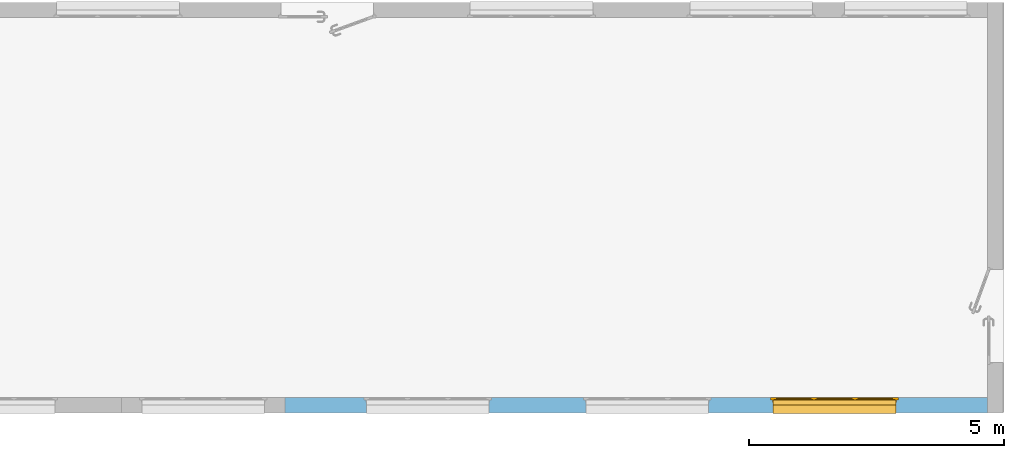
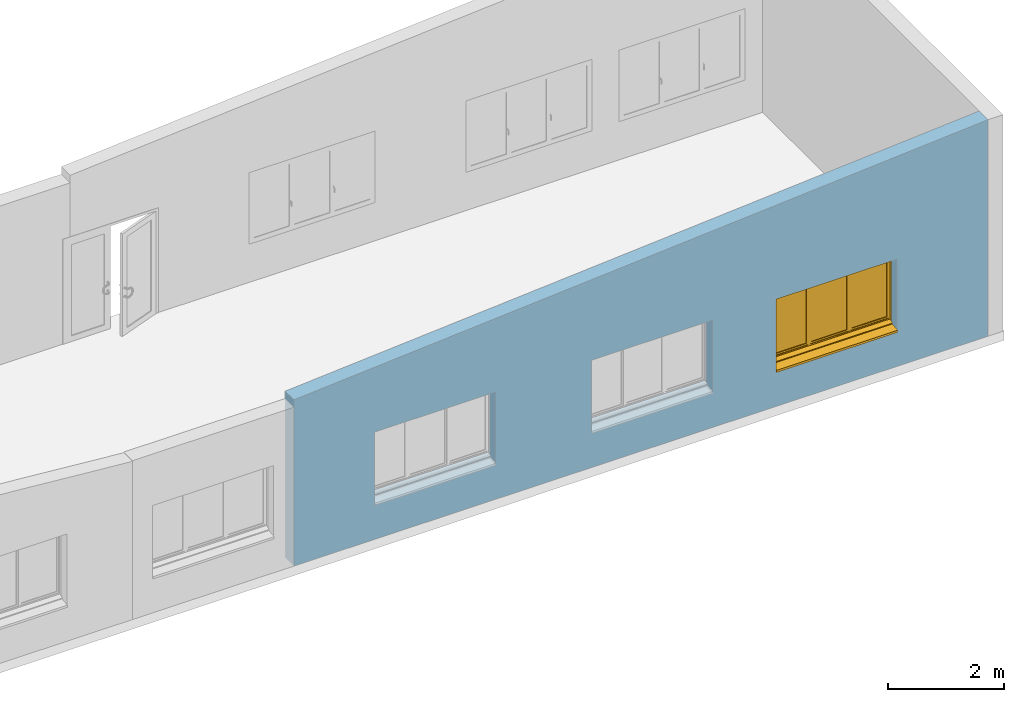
# One storey, part 6 of 8: 1 window, 3 openings, plus 1 element that does not belong to this part.
"""IFC2X3 building model written with IfcOpenShell, lengths in metres."""

from ifc_helpers import new_model, entity, si_unit, converted_unit, derived_unit, direction, frame, frame_2d, origin, place, context, subcontext, project, spatial, polyline, rectangle, extrude, clip, bounded_halfspace, faceted_brep, source, transform, mapped, material, material_list, layer, layer_set, layer_usage, type_object, type_shapes, element, fill, save


model = new_model("IFC2X3")

# Units and contexts
model_context = context("Model", 3, precision=1e-05, world=origin(), true_north=direction((6.12303176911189e-17, 1.0)))
body_context = subcontext(model_context, "Body", "Model", "MODEL_VIEW")
ifc_project = project(units=[si_unit("LENGTHUNIT", "METRE"), si_unit("AREAUNIT", "SQUARE_METRE"), si_unit("VOLUMEUNIT", "CUBIC_METRE"), converted_unit("PLANEANGLEUNIT", "DEGREE", entity("IfcRatioMeasure", 0.0174532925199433), si_unit("PLANEANGLEUNIT", "RADIAN"), dimensions=[0, 0, 0, 0, 0, 0, 0]), si_unit("MASSUNIT", "GRAM", prefix="KILO"), derived_unit("MASSDENSITYUNIT", [(si_unit("MASSUNIT", "GRAM", prefix="KILO"), 1), (si_unit("LENGTHUNIT", "METRE"), -3)]), si_unit("TIMEUNIT", "SECOND"), si_unit("FREQUENCYUNIT", "HERTZ"), si_unit("THERMODYNAMICTEMPERATUREUNIT", "DEGREE_CELSIUS"), derived_unit("THERMALTRANSMITTANCEUNIT", [(si_unit("MASSUNIT", "GRAM", prefix="KILO"), 1), (si_unit("THERMODYNAMICTEMPERATUREUNIT", "KELVIN"), -1), (si_unit("TIMEUNIT", "SECOND"), -3)]), derived_unit("VOLUMETRICFLOWRATEUNIT", [(si_unit("LENGTHUNIT", "METRE"), 3), (si_unit("TIMEUNIT", "SECOND"), -1)]), si_unit("ELECTRICCURRENTUNIT", "AMPERE"), si_unit("ELECTRICVOLTAGEUNIT", "VOLT"), si_unit("POWERUNIT", "WATT"), si_unit("FORCEUNIT", "NEWTON", prefix="KILO"), si_unit("ILLUMINANCEUNIT", "LUX"), si_unit("LUMINOUSFLUXUNIT", "LUMEN"), si_unit("LUMINOUSINTENSITYUNIT", "CANDELA"), derived_unit("USERDEFINED", [(si_unit("MASSUNIT", "GRAM", prefix="KILO"), -1), (si_unit("LENGTHUNIT", "METRE"), -2), (si_unit("TIMEUNIT", "SECOND"), 3), (si_unit("LUMINOUSFLUXUNIT", "LUMEN"), 1)]), derived_unit("LINEARVELOCITYUNIT", [(si_unit("LENGTHUNIT", "METRE"), 1), (si_unit("TIMEUNIT", "SECOND"), -1)]), si_unit("PRESSUREUNIT", "PASCAL"), derived_unit("USERDEFINED", [(si_unit("LENGTHUNIT", "METRE"), -2), (si_unit("MASSUNIT", "GRAM", prefix="KILO"), 1), (si_unit("TIMEUNIT", "SECOND"), -2)])], contexts=[model_context])

# Site, building, storey
site_placement = place(None, origin())
site = spatial("IfcSite", under=ifc_project, at=site_placement, Name="Default", CompositionType="ELEMENT")
building_placement = place(site_placement, origin())
building = spatial("IfcBuilding", under=site, at=building_placement, CompositionType="ELEMENT")
storey_placement = place(building_placement, frame((0.0, 0.0, 3.3)))
storey = spatial("IfcBuildingStorey", under=building, at=storey_placement, Name="Niveau 1", CompositionType="ELEMENT", Elevation=3.3)

# Wall, openings, window
ifc_material_1 = material(Name="Maçonnerie - Voile BA")
ifc_layer_1 = layer(ifc_material_1, 0.18)
ifc_material_2 = material(Name="Maçonnerie - Isolant")
ifc_layer_2 = layer(ifc_material_2, 0.12)
ifc_layer_set = layer_set([ifc_layer_1, ifc_layer_2], Name="Mur de base:Ext. Voile BA 18 + Isolant 12")
ifc_layer_usage = layer_usage(ifc_layer_set, "AXIS2", "NEGATIVE", 0.15)
wall_type = type_object("IfcWallType", Name="Mur de base:Ext. Voile BA 18 + Isolant 12", PredefinedType="STANDARD", material=ifc_layer_set)
wall_placement = place(storey_placement, frame((12.280485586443, -4.88088141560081, 0.0), z_axis=(0.0, 0.0, 1.0), x_axis=(-1.0, 0.0, 0.0)))
wall = element("IfcWallStandardCase", 1, at=wall_placement, inside=storey, type_object=wall_type, material=ifc_layer_usage, Name="Mur de base:Ext. Voile BA 18 + Isolant 12", ObjectType="Mur de base:Ext. Voile BA 18 + Isolant 12", context=body_context, shape_type="Clipping", body=[
    clip(extrude(rectangle(XDim=13.7658292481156, YDim=0.3, at=frame_2d((6.88291462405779, -6.93889390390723e-17), x_axis=(-1.0, 0.0))), origin(), (0.0, 0.0, 1.0), 4.54000000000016), bounded_halfspace(frame((0.0, -0.150000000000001, 4.54000000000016), z_axis=(-0.0763909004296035, 0.0, -0.997077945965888), x_axis=(-0.997077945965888, 0.0, 0.0763909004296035)), True, frame((0.0, -0.150000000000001, 4.54000000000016)), polyline([(0.0, 0.0), (13.7658292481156, 0.0), (13.7658292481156, 0.3), (0.0, 0.3), (0.0, 0.0)]))),
])
opening_1_placement = place(wall_placement, frame((12.2158292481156, 0.499999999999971, 0.720000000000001), z_axis=(0.0, 0.0, 1.0), x_axis=(-1.0, 0.0, 0.0)))
element("IfcOpeningElement", 2, at=opening_1_placement, cuts=wall, Name="Mur de base:Ext. Voile BA 18 + Isolant 12", ObjectType="Opening", context=body_context, shape_type="Brep", body=[
    faceted_brep([(2.45, 0.57000000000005, 0.0800000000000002), (2.45, 0.549999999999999, 0.0800000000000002), (2.45, 0.549999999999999, 1.53), (2.45, 0.0, 1.53), (2.45, 0.0, 0.0), (2.45, 0.57000000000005, 0.0), (0.0500000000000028, 1.0, 0.0800000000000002), (0.0500000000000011, 0.650000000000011, 0.0800000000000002), (0.0500000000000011, 0.650000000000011, 1.53), (0.0500000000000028, 1.0, 1.53), (2.45, 1.0, 0.0800000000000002), (2.45, 0.650000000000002, 0.0800000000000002), (2.5, 0.650000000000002, 0.0800000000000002), (2.5, 0.600000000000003, 0.0800000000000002), (2.46, 0.600000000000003, 0.0800000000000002), (2.46, 0.549999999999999, 0.0800000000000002), (0.0500000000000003, 0.570000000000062, 0.0800000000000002), (0.0500000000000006, 0.550000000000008, 0.0800000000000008), (0.0399999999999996, 0.550000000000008, 0.0800000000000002), (0.0399999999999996, 0.600000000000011, 0.0800000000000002), (0.0, 0.600000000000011, 0.0800000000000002), (0.0, 0.65000000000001, 0.0800000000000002), (2.45, 1.0, 1.53), (0.0500000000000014, 0.550000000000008, 1.53), (0.049999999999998, 0.0, 1.53), (0.049999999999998, 0.0, 0.0), (0.0500000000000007, 0.570000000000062, 0.0), (2.5, 0.650000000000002, 1.58), (2.5, 0.600000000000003, 1.58), (0.0, 0.600000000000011, 1.58), (0.0400000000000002, 0.600000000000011, 1.54), (2.46, 0.600000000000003, 1.54), (2.46, 0.549999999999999, 1.54), (0.0399999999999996, 0.550000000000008, 1.54), (2.45, 0.650000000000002, 1.53), (0.0, 0.650000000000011, 1.58)], [[[0, 1, 2, 3, 4, 5]], [[6, 7, 8, 9]], [[10, 11, 12, 13, 14, 15, 1, 0, 16, 17, 18, 19, 20, 21, 7, 6]], [[10, 6, 9, 22]], [[3, 2, 23, 24]], [[3, 24, 25, 4]], [[4, 25, 26, 5]], [[5, 26, 16, 0]], [[12, 27, 28, 13]], [[13, 28, 29, 20, 19, 30, 31, 14]], [[14, 31, 32, 15]], [[15, 32, 33, 18, 17, 23, 2, 1]], [[11, 34, 8, 7, 21, 35, 27, 12]], [[27, 35, 29, 28]], [[30, 33, 32, 31]], [[29, 35, 21, 20]], [[19, 18, 33, 30]], [[9, 8, 34, 22]], [[24, 23, 17, 16, 26, 25]], [[22, 34, 11, 10]]]),
])
opening_2_placement = place(wall_placement, frame((7.91582924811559, 0.499999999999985, 0.720000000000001), z_axis=(0.0, 0.0, 1.0), x_axis=(-1.0, 0.0, 0.0)))
element("IfcOpeningElement", 3, at=opening_2_placement, cuts=wall, Name="Mur de base:Ext. Voile BA 18 + Isolant 12", ObjectType="Opening", context=body_context, shape_type="Brep", body=[
    faceted_brep([(2.45, 0.57000000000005, 0.0800000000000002), (2.45, 0.549999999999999, 0.0800000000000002), (2.45, 0.549999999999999, 1.53), (2.45, 0.0, 1.53), (2.45, 0.0, 0.0), (2.45, 0.57000000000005, 0.0), (0.0500000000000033, 1.0, 0.0800000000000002), (0.0500000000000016, 0.650000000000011, 0.0800000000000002), (0.0500000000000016, 0.650000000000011, 1.53), (0.0500000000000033, 1.0, 1.53), (2.45, 1.0, 0.0800000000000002), (2.45, 0.650000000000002, 0.0800000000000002), (2.5, 0.650000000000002, 0.0800000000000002), (2.5, 0.600000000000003, 0.0800000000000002), (2.46, 0.600000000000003, 0.0800000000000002), (2.46, 0.549999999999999, 0.0800000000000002), (0.0500000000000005, 0.570000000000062, 0.0800000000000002), (0.0500000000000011, 0.550000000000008, 0.0800000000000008), (0.0400000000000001, 0.550000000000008, 0.0800000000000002), (0.0400000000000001, 0.600000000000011, 0.0800000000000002), (0.0, 0.600000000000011, 0.0800000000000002), (0.0, 0.65000000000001, 0.0800000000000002), (2.45, 1.0, 1.53), (0.0500000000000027, 0.550000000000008, 1.53), (0.0499999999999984, 0.0, 1.53), (0.0499999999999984, 0.0, 0.0), (0.0500000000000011, 0.570000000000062, 0.0), (2.5, 0.650000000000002, 1.58), (2.5, 0.600000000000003, 1.58), (0.0, 0.600000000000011, 1.58), (0.0400000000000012, 0.600000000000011, 1.54), (2.46, 0.600000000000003, 1.54), (2.46, 0.549999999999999, 1.54), (0.0400000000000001, 0.550000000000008, 1.54), (2.45, 0.650000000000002, 1.53), (0.0, 0.650000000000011, 1.58)], [[[0, 1, 2, 3, 4, 5]], [[6, 7, 8, 9]], [[10, 11, 12, 13, 14, 15, 1, 0, 16, 17, 18, 19, 20, 21, 7, 6]], [[10, 6, 9, 22]], [[3, 2, 23, 24]], [[3, 24, 25, 4]], [[4, 25, 26, 5]], [[5, 26, 16, 0]], [[12, 27, 28, 13]], [[13, 28, 29, 20, 19, 30, 31, 14]], [[14, 31, 32, 15]], [[15, 32, 33, 18, 17, 23, 2, 1]], [[11, 34, 8, 7, 21, 35, 27, 12]], [[27, 35, 29, 28]], [[30, 33, 32, 31]], [[29, 35, 21, 20]], [[19, 18, 33, 30]], [[9, 8, 34, 22]], [[24, 23, 17, 16, 26, 25]], [[22, 34, 11, 10]]]),
])
opening_3_placement = place(wall_placement, frame((4.25, 0.499999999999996, 0.720000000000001), z_axis=(0.0, 0.0, 1.0), x_axis=(-1.0, 0.0, 0.0)))
opening_3 = element("IfcOpeningElement", 4, at=opening_3_placement, cuts=wall, Name="Mur de base:Ext. Voile BA 18 + Isolant 12", ObjectType="Opening", context=body_context, shape_type="Brep", body=[
    faceted_brep([(2.45, 0.57000000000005, 0.0800000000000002), (2.45, 0.549999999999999, 0.0800000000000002), (2.45, 0.549999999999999, 1.53), (2.45, 0.0, 1.53), (2.45, 0.0, 0.0), (2.45, 0.57000000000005, 0.0), (0.0500000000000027, 1.0, 0.0800000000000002), (0.0500000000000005, 0.650000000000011, 0.0800000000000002), (0.0500000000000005, 0.650000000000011, 1.53), (0.0500000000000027, 1.0, 1.53), (2.45, 1.0, 0.0800000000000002), (2.45, 0.650000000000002, 0.0800000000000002), (2.5, 0.650000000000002, 0.0800000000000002), (2.5, 0.600000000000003, 0.0800000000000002), (2.46, 0.600000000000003, 0.0800000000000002), (2.46, 0.549999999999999, 0.0800000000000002), (0.0500000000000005, 0.570000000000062, 0.0800000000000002), (0.0500000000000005, 0.550000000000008, 0.0800000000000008), (0.0399999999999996, 0.550000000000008, 0.0800000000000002), (0.0399999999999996, 0.600000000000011, 0.0800000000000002), (0.0, 0.600000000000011, 0.0800000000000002), (0.0, 0.65000000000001, 0.0800000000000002), (2.45, 1.0, 1.53), (0.0500000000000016, 0.550000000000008, 1.53), (0.0499999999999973, 0.0, 1.53), (0.0499999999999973, 0.0, 0.0), (0.0500000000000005, 0.570000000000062, 0.0), (2.5, 0.650000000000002, 1.58), (2.5, 0.600000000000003, 1.58), (0.0, 0.600000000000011, 1.58), (0.0399999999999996, 0.600000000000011, 1.54), (2.46, 0.600000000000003, 1.54), (2.46, 0.549999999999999, 1.54), (0.0399999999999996, 0.550000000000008, 1.54), (2.45, 0.650000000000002, 1.53), (0.0, 0.650000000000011, 1.58)], [[[0, 1, 2, 3, 4, 5]], [[6, 7, 8, 9]], [[10, 11, 12, 13, 14, 15, 1, 0, 16, 17, 18, 19, 20, 21, 7, 6]], [[10, 6, 9, 22]], [[3, 2, 23, 24]], [[3, 24, 25, 4]], [[4, 25, 26, 5]], [[5, 26, 16, 0]], [[12, 27, 28, 13]], [[13, 28, 29, 20, 19, 30, 31, 14]], [[14, 31, 32, 15]], [[15, 32, 33, 18, 17, 23, 2, 1]], [[11, 34, 8, 7, 21, 35, 27, 12]], [[27, 35, 29, 28]], [[30, 33, 32, 31]], [[29, 35, 21, 20]], [[19, 18, 33, 30]], [[9, 8, 34, 22]], [[24, 23, 17, 16, 26, 25]], [[22, 34, 11, 10]]]),
])
ifc_material_3 = material(Name="Fenêtre - Poignée")
ifc_material_4 = material(Name="Fenêtre - Appui")
ifc_material_5 = material(Name="Fenêtre - Cadre")
ifc_material_6 = material(Name="Fenêtre - Vitrage")
ifc_material_list_1 = material_list([ifc_material_3, ifc_material_4, ifc_material_5, ifc_material_6])
ifc_material_list_2 = material_list([ifc_material_3, ifc_material_4, ifc_material_5, ifc_material_6])
window_style = type_object("IfcWindowStyle", Name="2.40m x 1.45m - Appui Béton", ConstructionType="NOTDEFINED", OperationType="TRIPLE_PANEL_VERTICAL", ParameterTakesPrecedence=False, Sizeable=False, material=ifc_material_list_2)
shared_shape = source(origin(), body_context, "Body", "Brep", [
    faceted_brep([(0.83064600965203, -0.656000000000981, 0.702033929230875), (0.83203392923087, -0.656000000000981, 0.700646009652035), (0.83203392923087, -0.656000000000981, 0.68933230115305), (0.830667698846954, -0.656000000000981, 0.687966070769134), (0.819332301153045, -0.656000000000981, 0.687966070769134), (0.817966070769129, -0.656000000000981, 0.68933230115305), (0.817966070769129, -0.656000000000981, 0.700646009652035), (0.819353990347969, -0.656000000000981, 0.702033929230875), (0.83064600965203, -0.66891354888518, 0.702033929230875), (0.83203392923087, -0.668338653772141, 0.700646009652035), (0.83203392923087, -0.681646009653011, 0.687338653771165), (0.83203392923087, -0.681646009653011, 0.600000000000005), (0.83203392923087, -0.670332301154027, 0.600000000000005), (0.83203392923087, -0.670332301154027, 0.68265236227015), (0.83203392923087, -0.663652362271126, 0.68933230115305), (0.830667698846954, -0.663086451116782, 0.687966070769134), (0.819332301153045, -0.663086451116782, 0.687966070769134), (0.817966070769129, -0.663652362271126, 0.68933230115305), (0.817966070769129, -0.670332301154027, 0.68265236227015), (0.817966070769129, -0.670332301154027, 0.600000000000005), (0.817966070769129, -0.681646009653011, 0.600000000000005), (0.817966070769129, -0.681646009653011, 0.687338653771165), (0.817966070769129, -0.668338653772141, 0.700646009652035), (0.81935399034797, -0.66891354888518, 0.702033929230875), (0.83064600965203, -0.683033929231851, 0.687913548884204), (0.830667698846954, -0.668966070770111, 0.682086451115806), (0.819332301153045, -0.668966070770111, 0.682086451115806), (0.819353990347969, -0.683033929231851, 0.687913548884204), (0.83064600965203, -0.683033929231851, 0.600000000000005), (0.819353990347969, -0.683033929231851, 0.600000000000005), (0.819332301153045, -0.668966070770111, 0.600000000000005), (0.830667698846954, -0.668966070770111, 0.600000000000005)], [[[0, 1, 2, 3, 4, 5, 6, 7]], [[1, 0, 8, 9]], [[2, 1, 9, 10, 11, 12, 13, 14]], [[3, 2, 14, 15]], [[4, 3, 15, 16]], [[5, 4, 16, 17]], [[6, 5, 17, 18, 19, 20, 21, 22]], [[7, 6, 22, 23]], [[0, 7, 23, 8]], [[9, 8, 24, 10]], [[15, 14, 13, 25]], [[16, 15, 25, 26]], [[17, 16, 26, 18]], [[23, 22, 21, 27]], [[8, 23, 27, 24]], [[28, 29, 20, 19, 30, 31, 12, 11]], [[10, 24, 28, 11]], [[25, 13, 12, 31]], [[26, 25, 31, 30]], [[18, 26, 30, 19]], [[27, 21, 20, 29]], [[24, 27, 29, 28]]]),
    faceted_brep([(0.832000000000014, -0.656000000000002, 0.720000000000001), (0.817999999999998, -0.656000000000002, 0.720000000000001), (0.812999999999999, -0.656000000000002, 0.715000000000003), (0.812999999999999, -0.656000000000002, 0.644999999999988), (0.817999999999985, -0.656000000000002, 0.640000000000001), (0.832000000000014, -0.656000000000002, 0.640000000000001), (0.837, -0.656000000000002, 0.644999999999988), (0.837, -0.656000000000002, 0.715000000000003), (0.832000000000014, -0.650000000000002, 0.720000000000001), (0.837, -0.650000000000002, 0.715000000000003), (0.837, -0.650000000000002, 0.644999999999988), (0.832000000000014, -0.650000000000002, 0.640000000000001), (0.817999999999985, -0.650000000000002, 0.640000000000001), (0.812999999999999, -0.650000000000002, 0.644999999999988), (0.812999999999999, -0.650000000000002, 0.715000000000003), (0.817999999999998, -0.650000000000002, 0.720000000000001)], [[[0, 1, 2, 3, 4, 5, 6, 7]], [[8, 9, 10, 11, 12, 13, 14, 15]], [[1, 0, 8, 15]], [[2, 1, 15, 14]], [[3, 2, 14, 13]], [[4, 3, 13, 12]], [[5, 4, 12, 11]], [[6, 5, 11, 10]], [[7, 6, 10, 9]], [[0, 7, 9, 8]]]),
    faceted_brep([(1.68064600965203, -0.656000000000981, 0.702033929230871), (1.68203392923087, -0.656000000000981, 0.700646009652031), (1.68203392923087, -0.656000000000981, 0.689332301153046), (1.68066769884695, -0.656000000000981, 0.68796607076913), (1.66933230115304, -0.656000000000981, 0.68796607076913), (1.66796607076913, -0.656000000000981, 0.689332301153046), (1.66796607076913, -0.656000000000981, 0.700646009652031), (1.66935399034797, -0.656000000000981, 0.702033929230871), (1.68064600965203, -0.66891354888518, 0.702033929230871), (1.68203392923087, -0.668338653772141, 0.700646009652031), (1.68203392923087, -0.681646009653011, 0.687338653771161), (1.68203392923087, -0.681646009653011, 0.600000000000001), (1.68203392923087, -0.670332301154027, 0.600000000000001), (1.68203392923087, -0.670332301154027, 0.682652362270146), (1.68203392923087, -0.663652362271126, 0.689332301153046), (1.68066769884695, -0.663086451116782, 0.68796607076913), (1.66933230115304, -0.663086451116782, 0.68796607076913), (1.66796607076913, -0.663652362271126, 0.689332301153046), (1.66796607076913, -0.670332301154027, 0.682652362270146), (1.66796607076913, -0.670332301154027, 0.600000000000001), (1.66796607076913, -0.681646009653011, 0.600000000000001), (1.66796607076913, -0.681646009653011, 0.687338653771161), (1.66796607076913, -0.668338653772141, 0.700646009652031), (1.66935399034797, -0.66891354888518, 0.702033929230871), (1.68064600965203, -0.683033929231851, 0.6879135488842), (1.68066769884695, -0.668966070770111, 0.682086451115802), (1.66933230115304, -0.668966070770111, 0.682086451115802), (1.66935399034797, -0.683033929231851, 0.6879135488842), (1.68064600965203, -0.683033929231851, 0.600000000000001), (1.66935399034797, -0.683033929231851, 0.600000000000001), (1.66933230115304, -0.668966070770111, 0.600000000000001), (1.68066769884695, -0.668966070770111, 0.600000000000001)], [[[0, 1, 2, 3, 4, 5, 6, 7]], [[1, 0, 8, 9]], [[2, 1, 9, 10, 11, 12, 13, 14]], [[3, 2, 14, 15]], [[4, 3, 15, 16]], [[5, 4, 16, 17]], [[6, 5, 17, 18, 19, 20, 21, 22]], [[7, 6, 22, 23]], [[0, 7, 23, 8]], [[9, 8, 24, 10]], [[15, 14, 13, 25]], [[16, 15, 25, 26]], [[17, 16, 26, 18]], [[23, 22, 21, 27]], [[8, 23, 27, 24]], [[28, 29, 20, 19, 30, 31, 12, 11]], [[10, 24, 28, 11]], [[25, 13, 12, 31]], [[26, 25, 31, 30]], [[18, 26, 30, 19]], [[27, 21, 20, 29]], [[24, 27, 29, 28]]]),
    faceted_brep([(1.68200000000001, -0.656000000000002, 0.719999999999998), (1.668, -0.656000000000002, 0.719999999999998), (1.663, -0.656000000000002, 0.714999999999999), (1.663, -0.656000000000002, 0.644999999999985), (1.66799999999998, -0.656000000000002, 0.639999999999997), (1.68200000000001, -0.656000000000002, 0.639999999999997), (1.687, -0.656000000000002, 0.644999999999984), (1.687, -0.656000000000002, 0.714999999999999), (1.68200000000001, -0.650000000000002, 0.719999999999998), (1.687, -0.650000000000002, 0.714999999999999), (1.687, -0.650000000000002, 0.644999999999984), (1.68200000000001, -0.650000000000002, 0.639999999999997), (1.66799999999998, -0.650000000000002, 0.639999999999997), (1.663, -0.650000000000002, 0.644999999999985), (1.663, -0.650000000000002, 0.714999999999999), (1.668, -0.650000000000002, 0.719999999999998)], [[[0, 1, 2, 3, 4, 5, 6, 7]], [[8, 9, 10, 11, 12, 13, 14, 15]], [[1, 0, 8, 15]], [[2, 1, 15, 14]], [[3, 2, 14, 13]], [[4, 3, 13, 12]], [[5, 4, 12, 11]], [[6, 5, 11, 10]], [[7, 6, 10, 9]], [[0, 7, 9, 8]]]),
    faceted_brep([(0.050000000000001, -0.569999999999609, 0.0799999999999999), (0.0500000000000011, -0.519999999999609, 0.0799999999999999), (0.0500000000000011, -0.519999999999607, 0.0650000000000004), (0.0500000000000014, -0.334999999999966, 0.0455557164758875), (0.0500000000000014, -0.334999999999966, 0.0), (0.050000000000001, -0.569999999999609, 0.0), (2.45, -0.569999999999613, 0.0799999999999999), (2.45, -0.569999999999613, 0.0), (2.45, -0.33499999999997, 0.0), (2.45, -0.33499999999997, 0.0455557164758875), (2.45, -0.519999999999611, 0.0650000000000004), (2.45, -0.519999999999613, 0.0799999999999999)], [[[0, 1, 2, 3, 4, 5]], [[6, 7, 8, 9, 10, 11]], [[1, 0, 6, 11]], [[2, 1, 11, 10]], [[3, 2, 10, 9]], [[4, 3, 9, 8]], [[5, 4, 8, 7]], [[0, 5, 7, 6]]]),
    faceted_brep([(1.65, -0.610000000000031, 1.53), (1.65, -0.650000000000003, 1.53), (1.65, -0.650000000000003, 0.13), (1.65, -0.610000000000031, 0.13), (0.849999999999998, -0.65, 0.13), (0.849999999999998, -0.610000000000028, 0.13), (0.849999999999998, -0.65, 1.53), (0.899999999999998, -0.65, 0.18), (0.899999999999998, -0.65, 1.48), (1.6, -0.650000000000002, 1.48), (1.6, -0.650000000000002, 0.18), (0.849999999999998, -0.610000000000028, 1.53), (1.6, -0.61000000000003, 0.179999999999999), (1.6, -0.61000000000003, 1.48), (0.899999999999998, -0.610000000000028, 1.48), (0.899999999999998, -0.610000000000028, 0.18)], [[[0, 1, 2, 3]], [[3, 2, 4, 5]], [[2, 1, 6, 4], [7, 8, 9, 10]], [[5, 4, 6, 11]], [[5, 11, 0, 3], [12, 13, 14, 15]], [[9, 13, 12, 10]], [[10, 12, 15, 7]], [[7, 15, 14, 8]], [[11, 6, 1, 0]], [[8, 14, 13, 9]]]),
    faceted_brep([(0.849999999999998, -0.610000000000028, 1.53), (0.849999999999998, -0.650000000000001, 1.53), (0.849999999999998, -0.650000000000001, 0.13), (0.849999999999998, -0.610000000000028, 0.13), (0.0499999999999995, -0.649999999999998, 0.13), (0.0499999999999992, -0.610000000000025, 0.13), (0.0499999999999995, -0.649999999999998, 1.53), (0.0999999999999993, -0.649999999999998, 0.18), (0.0999999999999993, -0.649999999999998, 1.48), (0.799999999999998, -0.650000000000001, 1.48), (0.799999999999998, -0.650000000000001, 0.18), (0.0499999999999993, -0.610000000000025, 1.53), (0.799999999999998, -0.610000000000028, 0.18), (0.799999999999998, -0.610000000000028, 1.48), (0.0999999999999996, -0.610000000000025, 1.48), (0.0999999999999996, -0.610000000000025, 0.18)], [[[0, 1, 2, 3]], [[3, 2, 4, 5]], [[2, 1, 6, 4], [7, 8, 9, 10]], [[5, 4, 6, 11]], [[5, 11, 0, 3], [12, 13, 14, 15]], [[9, 13, 12, 10]], [[10, 12, 15, 7]], [[7, 15, 14, 8]], [[11, 6, 1, 0]], [[8, 14, 13, 9]]]),
    faceted_brep([(1.7, -0.624000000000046, 0.18), (1.7, -0.624000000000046, 1.48), (2.4, -0.624000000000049, 1.48), (2.4, -0.624000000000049, 0.18), (1.7, -0.636000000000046, 0.18), (1.7, -0.636000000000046, 1.48), (2.4, -0.636000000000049, 1.48), (2.4, -0.636000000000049, 0.18)], [[[0, 1, 2, 3]], [[1, 0, 4, 5]], [[3, 2, 6, 7]], [[0, 3, 7, 4]], [[2, 1, 5, 6]], [[4, 7, 6, 5]]]),
    faceted_brep([(0.799999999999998, -0.624000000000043, 0.18), (0.799999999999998, -0.624000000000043, 1.48), (0.799999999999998, -0.636000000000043, 1.48), (0.799999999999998, -0.636000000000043, 0.18), (0.0999999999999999, -0.624000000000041, 0.18), (0.0999999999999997, -0.636000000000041, 0.18), (0.0999999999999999, -0.624000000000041, 1.48), (0.0999999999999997, -0.636000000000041, 1.48)], [[[0, 1, 2, 3]], [[4, 0, 3, 5]], [[6, 4, 5, 7]], [[7, 5, 3, 2]], [[1, 6, 7, 2]], [[6, 1, 0, 4]]]),
    faceted_brep([(1.6, -0.624000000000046, 0.18), (1.6, -0.624000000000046, 1.48), (1.6, -0.636000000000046, 1.48), (1.6, -0.636000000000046, 0.18), (0.899999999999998, -0.624000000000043, 0.18), (0.899999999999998, -0.636000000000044, 0.18), (0.899999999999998, -0.624000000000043, 1.48), (0.899999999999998, -0.636000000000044, 1.48)], [[[0, 1, 2, 3]], [[4, 0, 3, 5]], [[6, 4, 5, 7]], [[1, 6, 7, 2]], [[7, 5, 3, 2]], [[6, 1, 0, 4]]]),
    faceted_brep([(1.7, -0.610000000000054, 1.48), (1.7, -0.650000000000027, 1.48), (1.7, -0.650000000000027, 0.18), (1.7, -0.610000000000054, 0.18), (2.4, -0.650000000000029, 0.18), (2.4, -0.610000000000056, 0.18), (2.4, -0.650000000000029, 1.48), (2.45, -0.65000000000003, 0.13), (2.45, -0.65000000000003, 1.53), (1.65, -0.650000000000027, 1.53), (1.65, -0.650000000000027, 0.13), (2.4, -0.610000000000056, 1.48), (1.65, -0.610000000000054, 0.13), (1.65, -0.610000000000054, 1.53), (2.45, -0.610000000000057, 1.53), (2.45, -0.610000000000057, 0.13)], [[[0, 1, 2, 3]], [[3, 2, 4, 5]], [[2, 1, 6, 4], [7, 8, 9, 10]], [[5, 4, 6, 11]], [[5, 11, 0, 3], [12, 13, 14, 15]], [[9, 13, 12, 10]], [[10, 12, 15, 7]], [[7, 15, 14, 8]], [[11, 6, 1, 0]], [[8, 14, 13, 9]]], outer=[[True], [True], [False, True], [True], [False, True], [True], [True], [True], [True], [True]]),
    faceted_brep([(0.0, -0.650000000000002, 0.0799999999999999), (0.0, -0.600000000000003, 0.0799999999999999), (0.0499999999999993, -0.600000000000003, 0.0799999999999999), (0.0499999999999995, -0.51500000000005, 0.0800000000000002), (2.45, -0.515000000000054, 0.0799999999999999), (2.45, -0.600000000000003, 0.0800000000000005), (2.5, -0.600000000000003, 0.0799999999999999), (2.5, -0.650000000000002, 0.0799999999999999), (0.0, -0.650000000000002, 1.58), (0.0, -0.600000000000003, 1.58), (2.5, -0.600000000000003, 1.58), (2.45, -0.600000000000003, 0.119376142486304), (0.0499999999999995, -0.600000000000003, 0.119376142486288), (0.0649999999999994, -0.600000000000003, 1.515), (0.0649999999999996, -0.600000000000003, 0.145), (2.435, -0.600000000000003, 0.145), (2.435, -0.600000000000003, 1.515), (0.0499999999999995, -0.50500000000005, 0.0939209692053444), (0.0499999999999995, -0.50500000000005, 0.0749999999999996), (0.0499999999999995, -0.51500000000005, 0.0749999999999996), (2.45, -0.515000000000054, 0.0749999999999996), (2.45, -0.505000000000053, 0.0749999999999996), (2.45, -0.505000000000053, 0.0939209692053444), (2.5, -0.650000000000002, 1.58), (2.45, -0.650000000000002, 1.53), (2.45, -0.650000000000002, 0.13), (0.0499999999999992, -0.65, 0.13), (0.0499999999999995, -0.650000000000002, 1.53), (0.0649999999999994, -0.610000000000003, 1.515), (0.0649999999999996, -0.610000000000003, 0.145), (2.435, -0.610000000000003, 0.145), (2.435, -0.610000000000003, 1.515), (2.45, -0.610000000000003, 1.53), (0.0499999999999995, -0.610000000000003, 1.53), (0.0499999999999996, -0.610000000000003, 0.13), (2.45, -0.610000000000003, 0.13)], [[[0, 1, 2, 3, 4, 5, 6, 7]], [[1, 0, 8, 9]], [[1, 9, 10, 6, 5, 11, 12, 2], [13, 14, 15, 16]], [[12, 17, 18, 19, 3, 2]], [[3, 19, 20, 4]], [[4, 20, 21, 22, 11, 5]], [[6, 10, 23, 7]], [[0, 7, 23, 8], [24, 25, 26, 27]], [[13, 28, 29, 14]], [[29, 30, 15, 14]], [[31, 16, 15, 30]], [[17, 12, 11, 22]], [[32, 33, 34, 35], [28, 31, 30, 29]], [[34, 33, 27, 26]], [[26, 25, 35, 34]], [[24, 32, 35, 25]], [[18, 17, 22, 21]], [[19, 18, 21, 20]], [[13, 16, 31, 28]], [[33, 32, 24, 27]], [[10, 9, 8, 23]]]),
    faceted_brep([(0.0499999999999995, -0.550000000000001, 0.0799999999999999), (0.0499999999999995, -0.600000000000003, 0.0799999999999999), (0.039999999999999, -0.600000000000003, 0.0799999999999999), (0.039999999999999, -0.550000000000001, 0.0799999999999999), (0.0499999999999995, -0.550000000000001, 1.53), (0.0499999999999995, -0.600000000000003, 1.53), (2.45, -0.600000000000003, 1.53), (2.45, -0.600000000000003, 0.0799999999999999), (2.46, -0.600000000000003, 0.0800000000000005), (2.46, -0.600000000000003, 1.54), (0.039999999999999, -0.600000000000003, 1.54), (0.039999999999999, -0.550000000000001, 1.54), (2.46, -0.550000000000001, 1.54), (2.46, -0.550000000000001, 0.0799999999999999), (2.45, -0.550000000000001, 0.0800000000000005), (2.45, -0.550000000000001, 1.53)], [[[0, 1, 2, 3]], [[1, 0, 4, 5]], [[2, 1, 5, 6, 7, 8, 9, 10]], [[3, 2, 10, 11]], [[0, 3, 11, 12, 13, 14, 15, 4]], [[6, 15, 14, 7]], [[14, 13, 8, 7]], [[12, 9, 8, 13]], [[5, 4, 15, 6]], [[11, 10, 9, 12]]]),
    faceted_brep([(1.67, -0.602000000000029, 1.515), (1.63, -0.602000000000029, 1.515), (1.63, -0.610000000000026, 1.515), (1.67, -0.610000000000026, 1.515), (1.67, -0.602000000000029, 0.145), (1.63, -0.602000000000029, 0.145), (1.63, -0.610000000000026, 0.145), (1.67, -0.610000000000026, 0.145)], [[[0, 1, 2, 3]], [[1, 0, 4, 5]], [[2, 1, 5, 6]], [[3, 2, 6, 7]], [[0, 3, 7, 4]], [[4, 7, 6, 5]]]),
    faceted_brep([(0.870000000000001, -0.602000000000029, 0.145), (0.870000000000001, -0.610000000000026, 0.145), (0.83, -0.610000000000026, 0.145), (0.83, -0.602000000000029, 0.145), (0.83, -0.602000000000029, 1.515), (0.870000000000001, -0.602000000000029, 1.515), (0.83, -0.610000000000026, 1.515), (0.870000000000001, -0.610000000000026, 1.515)], [[[0, 1, 2, 3]], [[4, 5, 0, 3]], [[6, 4, 3, 2]], [[7, 6, 2, 1]], [[5, 7, 1, 0]], [[5, 4, 6, 7]]]),
])
type_shapes(window_style, [shared_shape])
window_placement = place(opening_3_placement, frame((2.5, 0.0, 0.0), z_axis=(0.0, 0.0, 1.0), x_axis=(-1.0, 0.0, 0.0)))
window = element("IfcWindow", 5, at=window_placement, inside=storey, type_object=window_style, material=ifc_material_list_1, Name="3 Vantaux - Droits:2.40m x 1.45m - Appui Béton", ObjectType="2.40m x 1.45m - Appui Béton", OverallHeight=1.58, OverallWidth=2.5, context=body_context, shape_type="MappedRepresentation", body=[
    mapped(shared_shape, transform((0.0, 0.0, 0.0), scale=1.0)),
])
fill(opening_3, window)

save(model, "model.ifc")
